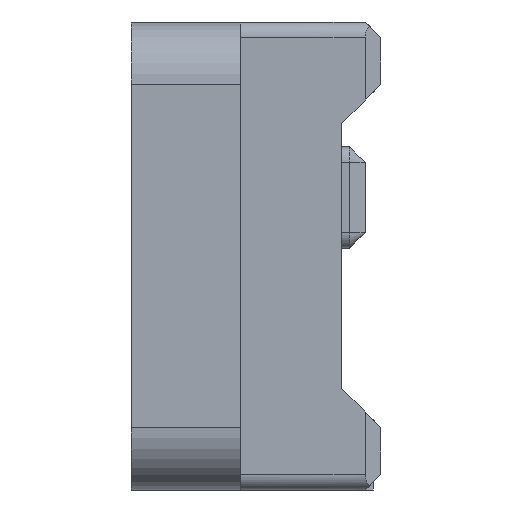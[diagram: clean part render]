
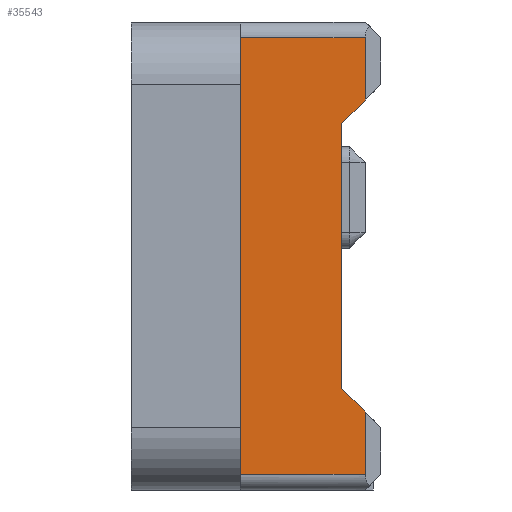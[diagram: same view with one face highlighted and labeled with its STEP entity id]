
A CAD part, left-side view. The second image highlights one B-rep face of the part: STEP entity #35543.
In plain terms, the highlighted planar face has unit normal (-1, 0, 0).
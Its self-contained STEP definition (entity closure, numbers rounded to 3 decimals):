
#4410=CARTESIAN_POINT('',(-4.3,-1.5,-1.4));
#4415=DIRECTION('',(0.,1.,0.));
#4416=VECTOR('',#4415,0.8);
#4417=CARTESIAN_POINT('',(-4.3,-1.5,-1.4));
#4418=LINE('',#4417,#4416);
#4419=DIRECTION('',(0.,0.707,-0.707));
#4420=VECTOR('',#4419,0.212);
#4421=CARTESIAN_POINT('',(-4.3,-1.5,1.));
#4422=LINE('',#4421,#4420);
#4423=DIRECTION('',(0.,-0.707,-0.707));
#4424=VECTOR('',#4423,0.212);
#4425=CARTESIAN_POINT('',(-4.3,-1.35,-0.85));
#4426=LINE('',#4425,#4424);
#4427=DIRECTION('',(0.,0.,-1.));
#4428=VECTOR('',#4427,0.4);
#4429=CARTESIAN_POINT('',(-4.3,-1.5,-1.));
#4430=LINE('',#4429,#4428);
#4436=DIRECTION('',(0.,0.,-1.));
#4437=VECTOR('',#4436,2.8);
#4438=CARTESIAN_POINT('',(-4.3,-0.7,1.4));
#4439=LINE('',#4438,#4437);
#4465=DIRECTION('',(0.,1.,0.));
#4466=VECTOR('',#4465,0.8);
#4467=CARTESIAN_POINT('',(-4.3,-1.5,1.4));
#4468=LINE('',#4467,#4466);
#4485=DIRECTION('',(0.,0.,1.));
#4486=VECTOR('',#4485,0.4);
#4487=CARTESIAN_POINT('',(-4.3,-1.5,1.));
#4488=LINE('',#4487,#4486);
#8180=DIRECTION('',(0.,0.,1.));
#8181=VECTOR('',#8180,1.7);
#8182=CARTESIAN_POINT('',(-4.3,-1.35,-0.85));
#8183=LINE('',#8182,#8181);
#20280=VERTEX_POINT('',#4410);
#20286=CARTESIAN_POINT('',(-4.3,-0.7,-1.4));
#20287=VERTEX_POINT('',#20286);
#20288=CARTESIAN_POINT('',(-4.3,-1.5,1.));
#20289=CARTESIAN_POINT('',(-4.3,-1.35,0.85));
#20290=VERTEX_POINT('',#20288);
#20291=VERTEX_POINT('',#20289);
#20292=CARTESIAN_POINT('',(-4.3,-1.35,-0.85));
#20293=CARTESIAN_POINT('',(-4.3,-1.5,-1.));
#20294=VERTEX_POINT('',#20292);
#20295=VERTEX_POINT('',#20293);
#20297=CARTESIAN_POINT('',(-4.3,-0.7,1.4));
#20299=VERTEX_POINT('',#20297);
#23007=CARTESIAN_POINT('',(-4.3,-1.5,1.4));
#23008=VERTEX_POINT('',#23007);
#35523=CARTESIAN_POINT('',(-4.3,-1.1,0.));
#35524=DIRECTION('',(1.,0.,0.));
#35525=DIRECTION('',(0.,-1.,0.));
#35526=AXIS2_PLACEMENT_3D('',#35523,#35524,#35525);
#35527=PLANE('',#35526);
#35528=ORIENTED_EDGE('',*,*,#35504,.T.);
#35530=ORIENTED_EDGE('',*,*,#35529,.F.);
#35532=ORIENTED_EDGE('',*,*,#35531,.F.);
#35534=ORIENTED_EDGE('',*,*,#35533,.F.);
#35535=ORIENTED_EDGE('',*,*,#28885,.T.);
#35537=ORIENTED_EDGE('',*,*,#35536,.F.);
#35539=ORIENTED_EDGE('',*,*,#35538,.T.);
#35540=ORIENTED_EDGE('',*,*,#35482,.T.);
#35541=EDGE_LOOP('',(#35528,#35530,#35532,#35534,#35535,#35537,#35539,#35540));
#35542=FACE_OUTER_BOUND('',#35541,.F.);
#35543=ADVANCED_FACE('',(#35542),#35527,.F.);
#28885=EDGE_CURVE('',#20290,#20291,#4422,.T.);
#35482=EDGE_CURVE('',#20295,#20280,#4430,.T.);
#35504=EDGE_CURVE('',#20280,#20287,#4418,.T.);
#35529=EDGE_CURVE('',#20299,#20287,#4439,.T.);
#35531=EDGE_CURVE('',#23008,#20299,#4468,.T.);
#35533=EDGE_CURVE('',#20290,#23008,#4488,.T.);
#35536=EDGE_CURVE('',#20294,#20291,#8183,.T.);
#35538=EDGE_CURVE('',#20294,#20295,#4426,.T.);
